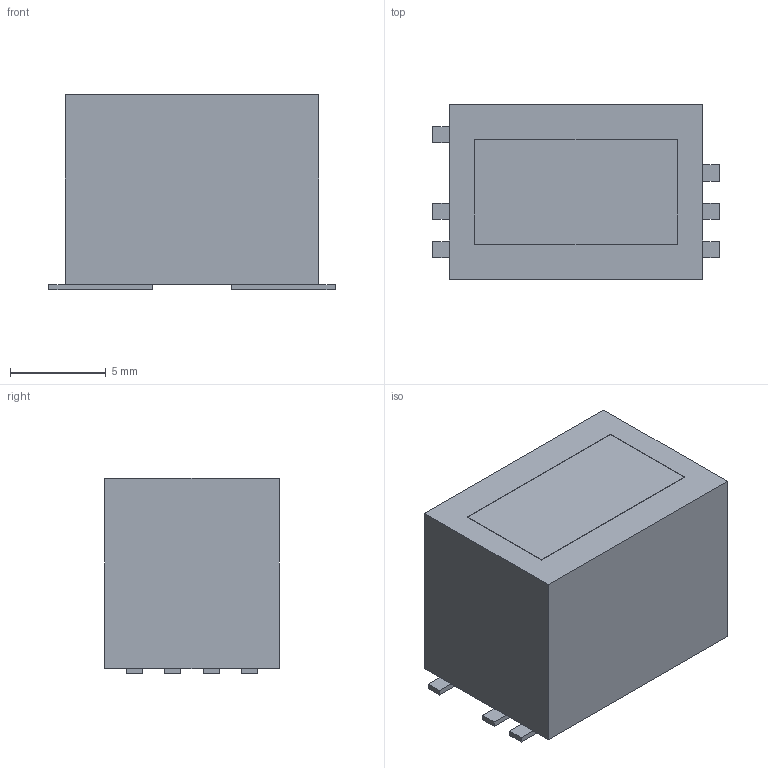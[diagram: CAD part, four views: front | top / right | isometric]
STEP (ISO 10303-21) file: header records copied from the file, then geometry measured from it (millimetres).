
FILE_DESCRIPTION(('FreeCAD Model'),'2;1');
FILE_NAME('Open CASCADE Shape Model','2026-09-21T21:53:17',('FreeCAD'),( 'FreeCAD'),'Open CASCADE STEP processor 7.8','FreeCAD','Unknown');
FILE_SCHEMA(('AUTOMOTIVE_DESIGN { 1 0 10303 214 1 1 1 1 }'));
Length unit declared in the file: millimetre
Products named in the file (1): Open CASCADE STEP translator 7.8 15
Bounding box: 14.91 x 9.1 x 10.21 mm (x, y, z)
Volume: 1198.3 mm3; surface area: 873.5 mm2
Topology: 8 solids, 8 shells, 48 faces, 96 edges, 64 vertices
Faces by surface type: plane 48
Entity records: 1216 total; most frequent: CARTESIAN_POINT 209, DIRECTION 194, ORIENTED_EDGE 192, EDGE_CURVE 96, LINE 96, VECTOR 96, VERTEX_POINT 64, AXIS2_PLACEMENT_3D 49
